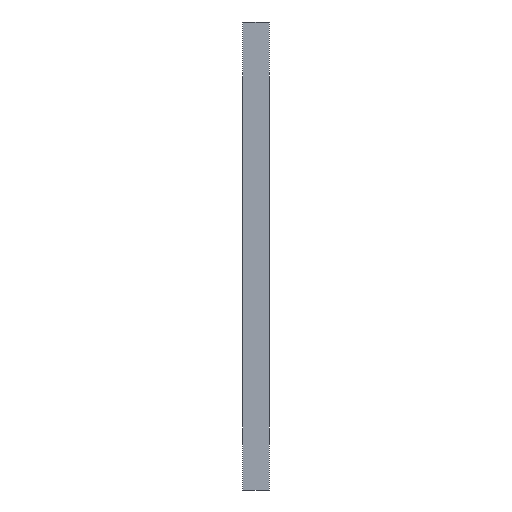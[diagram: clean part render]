
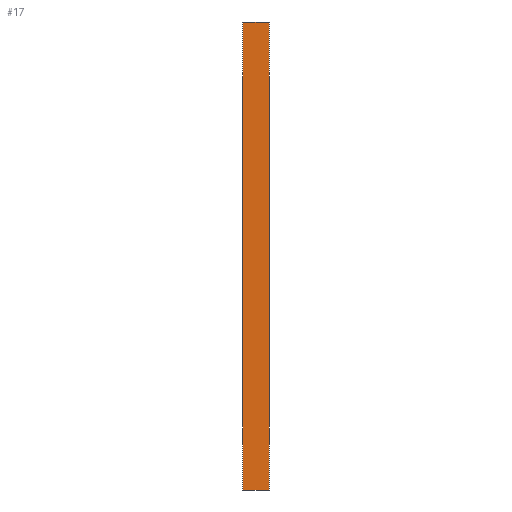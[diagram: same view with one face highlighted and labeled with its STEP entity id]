
A CAD part, left-side view. The second image highlights one B-rep face of the part: STEP entity #17.
In plain terms, the highlighted planar face has unit normal (-1, 0, 0).
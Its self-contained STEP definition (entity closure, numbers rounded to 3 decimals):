
#17 = ADVANCED_FACE('',(#18),#32,.F.);
#18 = FACE_BOUND('',#19,.F.);
#19 = EDGE_LOOP('',(#20,#55,#83,#111));
#20 = ORIENTED_EDGE('',*,*,#21,.F.);
#21 = EDGE_CURVE('',#22,#24,#26,.T.);
#22 = VERTEX_POINT('',#23);
#23 = CARTESIAN_POINT('',(174.5,280.,11.5));
#24 = VERTEX_POINT('',#25);
#25 = CARTESIAN_POINT('',(174.5,280.,67.));
#26 = SURFACE_CURVE('',#27,(#31,#43),.PCURVE_S1.);
#27 = LINE('',#28,#29);
#28 = CARTESIAN_POINT('',(174.5,280.,11.5));
#29 = VECTOR('',#30,1.);
#30 = DIRECTION('',(0.,0.,1.));
#31 = PCURVE('',#32,#37);
#32 = PLANE('',#33);
#33 = AXIS2_PLACEMENT_3D('',#34,#35,#36);
#34 = CARTESIAN_POINT('',(174.5,280.,11.5));
#35 = DIRECTION('',(1.,0.,0.));
#36 = DIRECTION('',(0.,0.,1.));
#37 = DEFINITIONAL_REPRESENTATION('',(#38),#42);
#38 = LINE('',#39,#40);
#39 = CARTESIAN_POINT('',(0.,0.));
#40 = VECTOR('',#41,1.);
#41 = DIRECTION('',(1.,0.));
#42 = ( GEOMETRIC_REPRESENTATION_CONTEXT(2) 
PARAMETRIC_REPRESENTATION_CONTEXT() REPRESENTATION_CONTEXT('2D SPACE',''
  ) );
#43 = PCURVE('',#44,#49);
#44 = PLANE('',#45);
#45 = AXIS2_PLACEMENT_3D('',#46,#47,#48);
#46 = CARTESIAN_POINT('',(174.5,280.,11.5));
#47 = DIRECTION('',(0.,1.,0.));
#48 = DIRECTION('',(0.,0.,1.));
#49 = DEFINITIONAL_REPRESENTATION('',(#50),#54);
#50 = LINE('',#51,#52);
#51 = CARTESIAN_POINT('',(0.,0.));
#52 = VECTOR('',#53,1.);
#53 = DIRECTION('',(1.,0.));
#54 = ( GEOMETRIC_REPRESENTATION_CONTEXT(2) 
PARAMETRIC_REPRESENTATION_CONTEXT() REPRESENTATION_CONTEXT('2D SPACE',''
  ) );
#55 = ORIENTED_EDGE('',*,*,#56,.T.);
#56 = EDGE_CURVE('',#22,#57,#59,.T.);
#57 = VERTEX_POINT('',#58);
#58 = CARTESIAN_POINT('',(174.5,283.2,11.5));
#59 = SURFACE_CURVE('',#60,(#64,#71),.PCURVE_S1.);
#60 = LINE('',#61,#62);
#61 = CARTESIAN_POINT('',(174.5,280.,11.5));
#62 = VECTOR('',#63,1.);
#63 = DIRECTION('',(0.,1.,0.));
#64 = PCURVE('',#32,#65);
#65 = DEFINITIONAL_REPRESENTATION('',(#66),#70);
#66 = LINE('',#67,#68);
#67 = CARTESIAN_POINT('',(0.,0.));
#68 = VECTOR('',#69,1.);
#69 = DIRECTION('',(0.,-1.));
#70 = ( GEOMETRIC_REPRESENTATION_CONTEXT(2) 
PARAMETRIC_REPRESENTATION_CONTEXT() REPRESENTATION_CONTEXT('2D SPACE',''
  ) );
#71 = PCURVE('',#72,#77);
#72 = PLANE('',#73);
#73 = AXIS2_PLACEMENT_3D('',#74,#75,#76);
#74 = CARTESIAN_POINT('',(174.5,280.,11.5));
#75 = DIRECTION('',(0.,0.,1.));
#76 = DIRECTION('',(1.,0.,0.));
#77 = DEFINITIONAL_REPRESENTATION('',(#78),#82);
#78 = LINE('',#79,#80);
#79 = CARTESIAN_POINT('',(0.,0.));
#80 = VECTOR('',#81,1.);
#81 = DIRECTION('',(0.,1.));
#82 = ( GEOMETRIC_REPRESENTATION_CONTEXT(2) 
PARAMETRIC_REPRESENTATION_CONTEXT() REPRESENTATION_CONTEXT('2D SPACE',''
  ) );
#83 = ORIENTED_EDGE('',*,*,#84,.T.);
#84 = EDGE_CURVE('',#57,#85,#87,.T.);
#85 = VERTEX_POINT('',#86);
#86 = CARTESIAN_POINT('',(174.5,283.2,67.));
#87 = SURFACE_CURVE('',#88,(#92,#99),.PCURVE_S1.);
#88 = LINE('',#89,#90);
#89 = CARTESIAN_POINT('',(174.5,283.2,11.5));
#90 = VECTOR('',#91,1.);
#91 = DIRECTION('',(0.,0.,1.));
#92 = PCURVE('',#32,#93);
#93 = DEFINITIONAL_REPRESENTATION('',(#94),#98);
#94 = LINE('',#95,#96);
#95 = CARTESIAN_POINT('',(0.,-3.2));
#96 = VECTOR('',#97,1.);
#97 = DIRECTION('',(1.,0.));
#98 = ( GEOMETRIC_REPRESENTATION_CONTEXT(2) 
PARAMETRIC_REPRESENTATION_CONTEXT() REPRESENTATION_CONTEXT('2D SPACE',''
  ) );
#99 = PCURVE('',#100,#105);
#100 = PLANE('',#101);
#101 = AXIS2_PLACEMENT_3D('',#102,#103,#104);
#102 = CARTESIAN_POINT('',(174.5,283.2,11.5));
#103 = DIRECTION('',(0.,1.,0.));
#104 = DIRECTION('',(0.,0.,1.));
#105 = DEFINITIONAL_REPRESENTATION('',(#106),#110);
#106 = LINE('',#107,#108);
#107 = CARTESIAN_POINT('',(0.,0.));
#108 = VECTOR('',#109,1.);
#109 = DIRECTION('',(1.,0.));
#110 = ( GEOMETRIC_REPRESENTATION_CONTEXT(2) 
PARAMETRIC_REPRESENTATION_CONTEXT() REPRESENTATION_CONTEXT('2D SPACE',''
  ) );
#111 = ORIENTED_EDGE('',*,*,#112,.F.);
#112 = EDGE_CURVE('',#24,#85,#113,.T.);
#113 = SURFACE_CURVE('',#114,(#118,#125),.PCURVE_S1.);
#114 = LINE('',#115,#116);
#115 = CARTESIAN_POINT('',(174.5,280.,67.));
#116 = VECTOR('',#117,1.);
#117 = DIRECTION('',(0.,1.,0.));
#118 = PCURVE('',#32,#119);
#119 = DEFINITIONAL_REPRESENTATION('',(#120),#124);
#120 = LINE('',#121,#122);
#121 = CARTESIAN_POINT('',(55.5,0.));
#122 = VECTOR('',#123,1.);
#123 = DIRECTION('',(0.,-1.));
#124 = ( GEOMETRIC_REPRESENTATION_CONTEXT(2) 
PARAMETRIC_REPRESENTATION_CONTEXT() REPRESENTATION_CONTEXT('2D SPACE',''
  ) );
#125 = PCURVE('',#126,#131);
#126 = PLANE('',#127);
#127 = AXIS2_PLACEMENT_3D('',#128,#129,#130);
#128 = CARTESIAN_POINT('',(174.5,280.,67.));
#129 = DIRECTION('',(0.,0.,1.));
#130 = DIRECTION('',(1.,0.,0.));
#131 = DEFINITIONAL_REPRESENTATION('',(#132),#136);
#132 = LINE('',#133,#134);
#133 = CARTESIAN_POINT('',(0.,0.));
#134 = VECTOR('',#135,1.);
#135 = DIRECTION('',(0.,1.));
#136 = ( GEOMETRIC_REPRESENTATION_CONTEXT(2) 
PARAMETRIC_REPRESENTATION_CONTEXT() REPRESENTATION_CONTEXT('2D SPACE',''
  ) );
